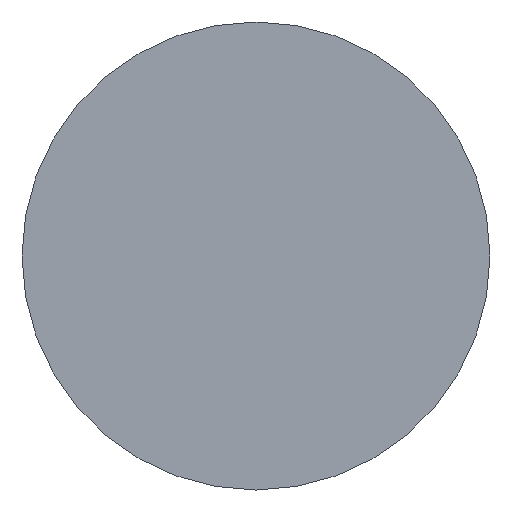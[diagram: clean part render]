
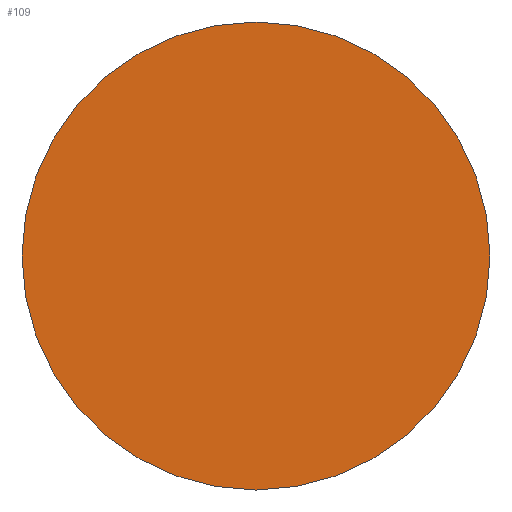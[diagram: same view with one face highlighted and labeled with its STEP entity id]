
A CAD part, left-side view. The second image highlights one B-rep face of the part: STEP entity #109.
In plain terms, the highlighted planar face has unit normal (-1, 0, 0).
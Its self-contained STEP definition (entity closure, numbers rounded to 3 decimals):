
#31 = CYLINDRICAL_SURFACE('',#32,0.6);
#32 = AXIS2_PLACEMENT_3D('',#33,#34,#35);
#33 = CARTESIAN_POINT('',(39.,-76.741,-55.883));
#34 = DIRECTION('',(1.,0.,0.));
#35 = DIRECTION('',(-0.,0.,1.));
#56 = VERTEX_POINT('',#57);
#57 = CARTESIAN_POINT('',(39.,-76.741,-55.283));
#78 = EDGE_CURVE('',#56,#56,#79,.T.);
#79 = SURFACE_CURVE('',#80,(#85,#92),.PCURVE_S1.);
#80 = CIRCLE('',#81,0.6);
#81 = AXIS2_PLACEMENT_3D('',#82,#83,#84);
#82 = CARTESIAN_POINT('',(39.,-76.741,-55.883));
#83 = DIRECTION('',(1.,0.,0.));
#84 = DIRECTION('',(-0.,0.,1.));
#85 = PCURVE('',#31,#86);
#86 = DEFINITIONAL_REPRESENTATION('',(#87),#91);
#87 = LINE('',#88,#89);
#88 = CARTESIAN_POINT('',(0.,0.));
#89 = VECTOR('',#90,1.);
#90 = DIRECTION('',(1.,0.));
#91 = ( GEOMETRIC_REPRESENTATION_CONTEXT(2) 
PARAMETRIC_REPRESENTATION_CONTEXT() REPRESENTATION_CONTEXT('2D SPACE',''
  ) );
#92 = PCURVE('',#93,#98);
#93 = PLANE('',#94);
#94 = AXIS2_PLACEMENT_3D('',#95,#96,#97);
#95 = CARTESIAN_POINT('',(39.,-76.741,-55.883));
#96 = DIRECTION('',(1.,0.,0.));
#97 = DIRECTION('',(-0.,0.,1.));
#98 = DEFINITIONAL_REPRESENTATION('',(#99),#103);
#99 = CIRCLE('',#100,0.6);
#100 = AXIS2_PLACEMENT_2D('',#101,#102);
#101 = CARTESIAN_POINT('',(0.,0.));
#102 = DIRECTION('',(1.,0.));
#103 = ( GEOMETRIC_REPRESENTATION_CONTEXT(2) 
PARAMETRIC_REPRESENTATION_CONTEXT() REPRESENTATION_CONTEXT('2D SPACE',''
  ) );
#109 = ADVANCED_FACE('',(#110),#93,.F.);
#110 = FACE_BOUND('',#111,.T.);
#111 = EDGE_LOOP('',(#112));
#112 = ORIENTED_EDGE('',*,*,#78,.F.);
